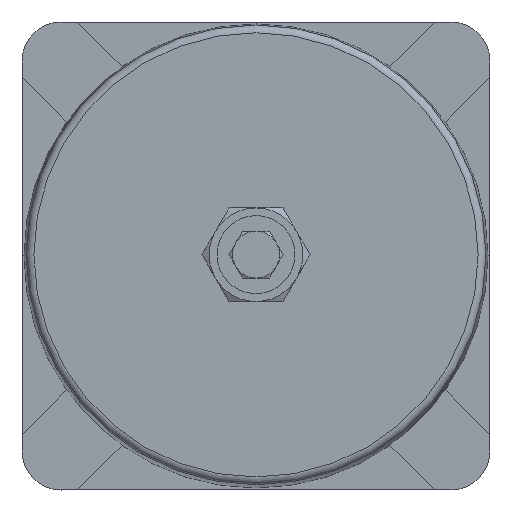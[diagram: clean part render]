
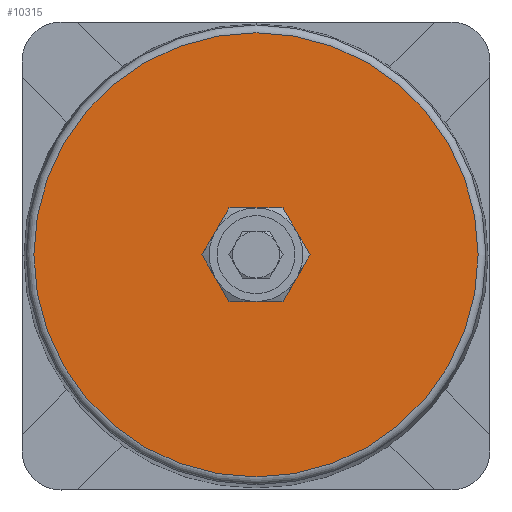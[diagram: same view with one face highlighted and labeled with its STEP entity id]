
A CAD part, top view. The second image highlights one B-rep face of the part: STEP entity #10315.
In plain terms, the highlighted planar face has unit normal (0, 0, 1).
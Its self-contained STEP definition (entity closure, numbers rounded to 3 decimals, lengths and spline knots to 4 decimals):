
#1699=FACE_BOUND('',#2668,.T.);
#1763=CIRCLE('',#11082,3.5599);
#1765=CIRCLE('',#11086,0.4375);
#1929=FACE_OUTER_BOUND('',#2667,.T.);
#2667=EDGE_LOOP('',(#6655));
#2668=EDGE_LOOP('',(#6656));
#4057=VERTEX_POINT('',#12652);
#4059=VERTEX_POINT('',#12658);
#4964=EDGE_CURVE('',#4057,#4057,#1763,.T.);
#4966=EDGE_CURVE('',#4059,#4059,#1765,.T.);
#6655=ORIENTED_EDGE('',*,*,#4964,.F.);
#6656=ORIENTED_EDGE('',*,*,#4966,.F.);
#9419=PLANE('',#11085);
#10315=ADVANCED_FACE('',(#1929,#1699),#9419,.T.);
#11082=AXIS2_PLACEMENT_3D('',#12653,#11607,#11608);
#11085=AXIS2_PLACEMENT_3D('',#12657,#11613,#11614);
#11086=AXIS2_PLACEMENT_3D('',#12659,#11615,#11616);
#11607=DIRECTION('center_axis',(0.,0.,
-1.));
#11608=DIRECTION('ref_axis',(-1.,0.,0.));
#11613=DIRECTION('center_axis',(0.,0.,
1.));
#11614=DIRECTION('ref_axis',(1.,0.,0.));
#11615=DIRECTION('center_axis',(0.,0.,
1.));
#11616=DIRECTION('ref_axis',(1.,0.,0.));
#12652=CARTESIAN_POINT('',(3.5599,0.,10.875));
#12653=CARTESIAN_POINT('Origin',(0.,0.,
10.875));
#12657=CARTESIAN_POINT('Origin',(2.0625,0.,10.875));
#12658=CARTESIAN_POINT('',(0.4375,0.,10.875));
#12659=CARTESIAN_POINT('Origin',(0.,0.,
10.875));
